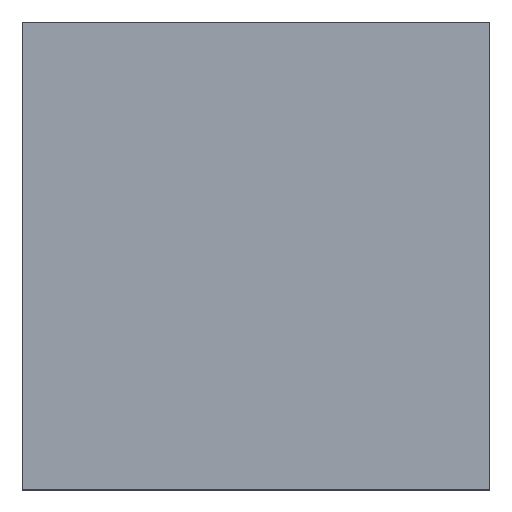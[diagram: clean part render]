
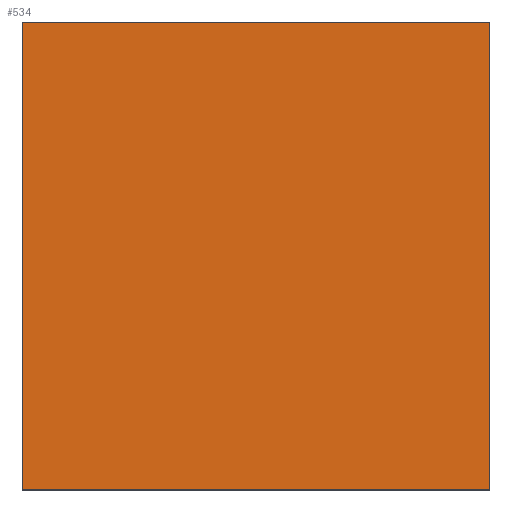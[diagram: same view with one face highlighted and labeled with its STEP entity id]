
A CAD part, top view. The second image highlights one B-rep face of the part: STEP entity #534.
In plain terms, the highlighted planar face has unit normal (0, 0, 1).
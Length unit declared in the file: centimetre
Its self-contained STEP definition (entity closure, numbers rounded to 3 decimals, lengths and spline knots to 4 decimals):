
#41 = DIRECTION ( 'NONE',  ( 0., -1., 0. ) ) ;
#51 = CARTESIAN_POINT ( 'NONE',  ( 0., 0., 1000. ) ) ;
#59 = CARTESIAN_POINT ( 'NONE',  ( 0., 1000., 1000. ) ) ;
#94 = CARTESIAN_POINT ( 'NONE',  ( 0., 0., 1000. ) ) ;
#113 = CARTESIAN_POINT ( 'NONE',  ( 1000., 0., 1000. ) ) ;
#152 = VECTOR ( 'NONE', #173, 100. ) ;
#153 = PLANE ( 'NONE',  #474 ) ;
#168 = VERTEX_POINT ( 'NONE', #113 ) ;
#173 = DIRECTION ( 'NONE',  ( -1., 0., 0. ) ) ;
#185 = VERTEX_POINT ( 'NONE', #59 ) ;
#195 = CARTESIAN_POINT ( 'NONE',  ( 1000., 1000., 1000. ) ) ;
#197 = DIRECTION ( 'NONE',  ( 0., 1., 0. ) ) ;
#199 = VECTOR ( 'NONE', #197, 100. ) ;
#216 = CARTESIAN_POINT ( 'NONE',  ( 1000., 1000., 1000. ) ) ;
#241 = DIRECTION ( 'NONE',  ( 1., 0., 0. ) ) ;
#243 = LINE ( 'NONE', #304, #387 ) ;
#304 = CARTESIAN_POINT ( 'NONE',  ( 0., 1000., 1000. ) ) ;
#346 = DIRECTION ( 'NONE',  ( 0., 0., 1. ) ) ;
#359 = EDGE_LOOP ( 'NONE', ( #599, #380, #531, #582 ) ) ;
#380 = ORIENTED_EDGE ( 'NONE', *, *, #557, .T. ) ;
#387 = VECTOR ( 'NONE', #41, 100. ) ;
#392 = VERTEX_POINT ( 'NONE', #486 ) ;
#396 = LINE ( 'NONE', #195, #199 ) ;
#400 = FACE_OUTER_BOUND ( 'NONE', #359, .T. ) ;
#431 = EDGE_CURVE ( 'NONE', #185, #392, #243, .T. ) ;
#456 = LINE ( 'NONE', #614, #152 ) ;
#462 = VECTOR ( 'NONE', #241, 100. ) ;
#474 = AXIS2_PLACEMENT_3D ( 'NONE', #94, #346, #555 ) ;
#486 = CARTESIAN_POINT ( 'NONE',  ( 0., 0., 1000. ) ) ;
#504 = LINE ( 'NONE', #51, #462 ) ;
#511 = EDGE_CURVE ( 'NONE', #168, #646, #396, .T. ) ;
#531 = ORIENTED_EDGE ( 'NONE', *, *, #511, .T. ) ;
#534 = ADVANCED_FACE ( 'NONE', ( #400 ), #153, .T. ) ;
#555 = DIRECTION ( 'NONE',  ( 1., 0., 0. ) ) ;
#557 = EDGE_CURVE ( 'NONE', #392, #168, #504, .T. ) ;
#582 = ORIENTED_EDGE ( 'NONE', *, *, #649, .T. ) ;
#599 = ORIENTED_EDGE ( 'NONE', *, *, #431, .T. ) ;
#614 = CARTESIAN_POINT ( 'NONE',  ( 0., 1000., 1000. ) ) ;
#646 = VERTEX_POINT ( 'NONE', #216 ) ;
#649 = EDGE_CURVE ( 'NONE', #646, #185, #456, .T. ) ;
